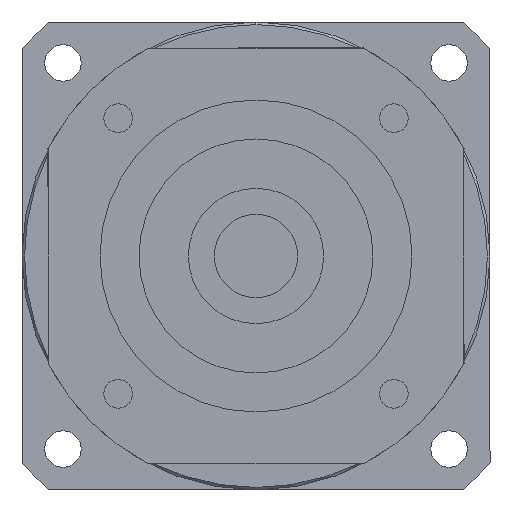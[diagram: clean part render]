
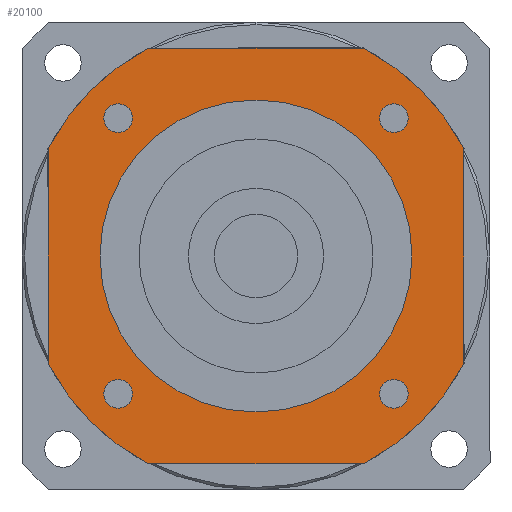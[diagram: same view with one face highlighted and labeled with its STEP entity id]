
A CAD part, left-side view. The second image highlights one B-rep face of the part: STEP entity #20100.
In plain terms, the highlighted planar face has unit normal (-1, 0, 0) as drawn and (0, 0, -1) by its records, which use the part's own axes.
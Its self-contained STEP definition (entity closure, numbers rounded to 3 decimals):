
#16130=CARTESIAN_POINT('',(-20.616,40.,-117.));
#16140=VERTEX_POINT('',#16130);
#16300=CARTESIAN_POINT('',(-40.,20.616,-117.));
#16310=VERTEX_POINT('',#16300);
#16340=CARTESIAN_POINT('',(0.,0.,
-117.));
#16350=DIRECTION('',(0.,0.,1.));
#16360=DIRECTION('',(0.,-1.,0.));
#16370=AXIS2_PLACEMENT_3D('',#16340,#16350,#16360);
#16380=CIRCLE('',#16370,45.);
#16390=EDGE_CURVE('',#16140,#16310,#16380,.T.);
#18340=CARTESIAN_POINT('',(20.616,40.,-117.));
#18350=VERTEX_POINT('',#18340);
#18480=CARTESIAN_POINT('',(40.,40.,-117.));
#18490=DIRECTION('',(-1.,0.,0.));
#18500=VECTOR('',#18490,1000.);
#18510=LINE('',#18480,#18500);
#18520=EDGE_CURVE('',#18350,#16140,#18510,.T.);
#18570=CARTESIAN_POINT('',(-40.,40.,-117.));
#18580=DIRECTION('',(0.,0.,1.));
#18590=DIRECTION('',(-1.,0.,0.));
#18600=AXIS2_PLACEMENT_3D('',#18570,#18580,#18590);
#18610=PLANE('',#18600);
#18620=CARTESIAN_POINT('',(26.517,-26.517,-117.));
#18630=DIRECTION('',(0.,0.,-1.));
#18640=DIRECTION('',(1.,0.,0.));
#18650=AXIS2_PLACEMENT_3D('',#18620,#18630,#18640);
#18660=CIRCLE('',#18650,2.75);
#18670=CARTESIAN_POINT('',(29.267,-26.517,-117.));
#18680=VERTEX_POINT('',#18670);
#18690=CARTESIAN_POINT('',(26.517,-29.267,-117.));
#18700=VERTEX_POINT('',#18690);
#18710=EDGE_CURVE('',#18680,#18700,#18660,.T.);
#18720=ORIENTED_EDGE('',*,*,#18710,.F.);
#18730=CARTESIAN_POINT('',(26.517,-23.767,-117.));
#18740=VERTEX_POINT('',#18730);
#18750=EDGE_CURVE('',#18700,#18740,#18660,.T.);
#18760=ORIENTED_EDGE('',*,*,#18750,.F.);
#18770=EDGE_CURVE('',#18740,#18680,#18660,.T.);
#18780=ORIENTED_EDGE('',*,*,#18770,.F.);
#18790=EDGE_LOOP('',(#18780,#18760,#18720));
#18800=FACE_BOUND('',#18790,.T.);
#18810=CARTESIAN_POINT('',(26.517,26.517,-117.));
#18820=DIRECTION('',(0.,0.,-1.));
#18830=DIRECTION('',(0.,1.,0.));
#18840=AXIS2_PLACEMENT_3D('',#18810,#18820,#18830);
#18850=CIRCLE('',#18840,2.75);
#18860=CARTESIAN_POINT('',(26.517,29.267,-117.));
#18870=VERTEX_POINT('',#18860);
#18880=CARTESIAN_POINT('',(29.267,26.517,-117.));
#18890=VERTEX_POINT('',#18880);
#18900=EDGE_CURVE('',#18870,#18890,#18850,.T.);
#18910=ORIENTED_EDGE('',*,*,#18900,.F.);
#18920=CARTESIAN_POINT('',(23.767,26.517,-117.));
#18930=VERTEX_POINT('',#18920);
#18940=EDGE_CURVE('',#18890,#18930,#18850,.T.);
#18950=ORIENTED_EDGE('',*,*,#18940,.F.);
#18960=EDGE_CURVE('',#18930,#18870,#18850,.T.);
#18970=ORIENTED_EDGE('',*,*,#18960,.F.);
#18980=EDGE_LOOP('',(#18970,#18950,#18910));
#18990=FACE_BOUND('',#18980,.T.);
#19000=CARTESIAN_POINT('',(-26.517,26.517,-117.));
#19010=DIRECTION('',(0.,0.,-1.));
#19020=DIRECTION('',(-1.,0.,0.));
#19030=AXIS2_PLACEMENT_3D('',#19000,#19010,#19020);
#19040=CIRCLE('',#19030,2.75);
#19050=CARTESIAN_POINT('',(-29.267,26.517,-117.));
#19060=VERTEX_POINT('',#19050);
#19070=CARTESIAN_POINT('',(-26.517,29.267,-117.));
#19080=VERTEX_POINT('',#19070);
#19090=EDGE_CURVE('',#19060,#19080,#19040,.T.);
#19100=ORIENTED_EDGE('',*,*,#19090,.F.);
#19110=CARTESIAN_POINT('',(-26.517,23.767,-117.));
#19120=VERTEX_POINT('',#19110);
#19130=EDGE_CURVE('',#19080,#19120,#19040,.T.);
#19140=ORIENTED_EDGE('',*,*,#19130,.F.);
#19150=EDGE_CURVE('',#19120,#19060,#19040,.T.);
#19160=ORIENTED_EDGE('',*,*,#19150,.F.);
#19170=EDGE_LOOP('',(#19160,#19140,#19100));
#19180=FACE_BOUND('',#19170,.T.);
#19190=CARTESIAN_POINT('',(-26.517,-26.517,-117.));
#19200=DIRECTION('',(0.,0.,-1.));
#19210=DIRECTION('',(0.,-1.,0.));
#19220=AXIS2_PLACEMENT_3D('',#19190,#19200,#19210);
#19230=CIRCLE('',#19220,2.75);
#19240=CARTESIAN_POINT('',(-26.517,-29.267,-117.));
#19250=VERTEX_POINT('',#19240);
#19260=CARTESIAN_POINT('',(-29.267,-26.517,-117.));
#19270=VERTEX_POINT('',#19260);
#19280=EDGE_CURVE('',#19250,#19270,#19230,.T.);
#19290=ORIENTED_EDGE('',*,*,#19280,.F.);
#19300=CARTESIAN_POINT('',(-23.767,-26.517,-117.));
#19310=VERTEX_POINT('',#19300);
#19320=EDGE_CURVE('',#19270,#19310,#19230,.T.);
#19330=ORIENTED_EDGE('',*,*,#19320,.F.);
#19340=EDGE_CURVE('',#19310,#19250,#19230,.T.);
#19350=ORIENTED_EDGE('',*,*,#19340,.F.);
#19360=EDGE_LOOP('',(#19350,#19330,#19290));
#19370=FACE_BOUND('',#19360,.T.);
#19380=CARTESIAN_POINT('',(0.,0.,
-117.));
#19390=DIRECTION('',(0.,0.,1.));
#19400=DIRECTION('',(0.,-1.,0.));
#19410=AXIS2_PLACEMENT_3D('',#19380,#19390,#19400);
#19420=CIRCLE('',#19410,45.);
#19430=CARTESIAN_POINT('',(-40.,-20.616,-117.));
#19440=VERTEX_POINT('',#19430);
#19450=CARTESIAN_POINT('',(-20.616,-40.,-117.));
#19460=VERTEX_POINT('',#19450);
#19470=EDGE_CURVE('',#19440,#19460,#19420,.T.);
#19480=ORIENTED_EDGE('',*,*,#19470,.F.);
#19490=CARTESIAN_POINT('',(-40.,-40.,-117.));
#19500=DIRECTION('',(1.,0.,0.));
#19510=VECTOR('',#19500,1000.);
#19520=LINE('',#19490,#19510);
#19530=CARTESIAN_POINT('',(20.616,-40.,-117.));
#19540=VERTEX_POINT('',#19530);
#19550=EDGE_CURVE('',#19460,#19540,#19520,.T.);
#19560=ORIENTED_EDGE('',*,*,#19550,.F.);
#19570=CARTESIAN_POINT('',(0.,0.,
-117.));
#19580=DIRECTION('',(0.,0.,1.));
#19590=DIRECTION('',(0.,-1.,0.));
#19600=AXIS2_PLACEMENT_3D('',#19570,#19580,#19590);
#19610=CIRCLE('',#19600,45.);
#19620=CARTESIAN_POINT('',(40.,-20.616,-117.));
#19630=VERTEX_POINT('',#19620);
#19640=EDGE_CURVE('',#19540,#19630,#19610,.T.);
#19650=ORIENTED_EDGE('',*,*,#19640,.F.);
#19660=CARTESIAN_POINT('',(40.,-40.,-117.));
#19670=DIRECTION('',(0.,1.,0.));
#19680=VECTOR('',#19670,1000.);
#19690=LINE('',#19660,#19680);
#19700=CARTESIAN_POINT('',(40.,20.616,-117.));
#19710=VERTEX_POINT('',#19700);
#19720=EDGE_CURVE('',#19630,#19710,#19690,.T.);
#19730=ORIENTED_EDGE('',*,*,#19720,.F.);
#19740=CARTESIAN_POINT('',(0.,0.,
-117.));
#19750=DIRECTION('',(0.,0.,1.));
#19760=DIRECTION('',(0.,-1.,0.));
#19770=AXIS2_PLACEMENT_3D('',#19740,#19750,#19760);
#19780=CIRCLE('',#19770,45.);
#19790=EDGE_CURVE('',#19710,#18350,#19780,.T.);
#19800=ORIENTED_EDGE('',*,*,#19790,.F.);
#19810=ORIENTED_EDGE('',*,*,#18520,.F.);
#19820=ORIENTED_EDGE('',*,*,#16390,.F.);
#19830=CARTESIAN_POINT('',(-40.,40.,-117.));
#19840=DIRECTION('',(0.,-1.,0.));
#19850=VECTOR('',#19840,1000.);
#19860=LINE('',#19830,#19850);
#19870=EDGE_CURVE('',#16310,#19440,#19860,.T.);
#19880=ORIENTED_EDGE('',*,*,#19870,.F.);
#19890=EDGE_LOOP('',(#19880,#19820,#19810,#19800,#19730,#19650,#19560,
#19480));
#19900=FACE_OUTER_BOUND('',#19890,.T.);
#19910=CARTESIAN_POINT('',(0.,0.,
-117.));
#19920=DIRECTION('',(0.,0.,1.));
#19930=DIRECTION('',(0.,-1.,0.));
#19940=AXIS2_PLACEMENT_3D('',#19910,#19920,#19930);
#19950=CIRCLE('',#19940,30.);
#19960=CARTESIAN_POINT('',(30.,0.,-117.));
#19970=VERTEX_POINT('',#19960);
#19980=CARTESIAN_POINT('',(-30.,0.,-117.));
#19990=VERTEX_POINT('',#19980);
#20000=EDGE_CURVE('',#19970,#19990,#19950,.T.);
#20010=ORIENTED_EDGE('',*,*,#20000,.T.);
#20020=CARTESIAN_POINT('',(0.,-30.,-117.));
#20030=VERTEX_POINT('',#20020);
#20040=EDGE_CURVE('',#20030,#19970,#19950,.T.);
#20050=ORIENTED_EDGE('',*,*,#20040,.T.);
#20060=EDGE_CURVE('',#19990,#20030,#19950,.T.);
#20070=ORIENTED_EDGE('',*,*,#20060,.T.);
#20080=EDGE_LOOP('',(#20070,#20050,#20010));
#20090=FACE_BOUND('',#20080,.T.);
#20100=ADVANCED_FACE('',(#18800,#18990,#19180,#19370,#19900,#20090),
#18610,.F.);
